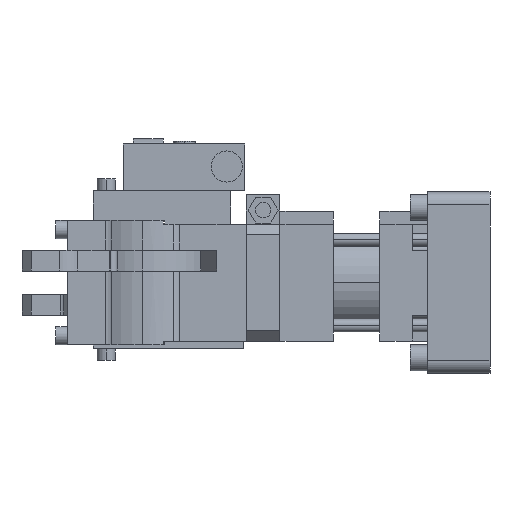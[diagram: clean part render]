
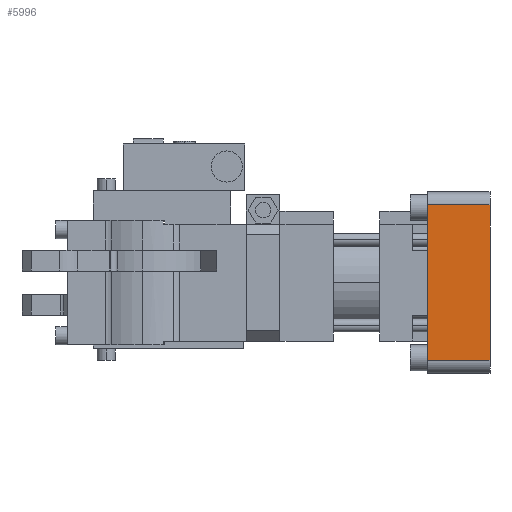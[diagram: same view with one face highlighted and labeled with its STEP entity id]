
A CAD part, left-side view. The second image highlights one B-rep face of the part: STEP entity #5996.
In plain terms, the highlighted planar face has unit normal (-1, 0, 0) as drawn and (0, -1, 0) by its records, which use the part's own axes.
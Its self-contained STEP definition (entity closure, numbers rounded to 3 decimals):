
#42 = DIRECTION ( 'NONE',  ( 1., 0., 0. ) ) ;
#461 = CARTESIAN_POINT ( 'NONE',  ( -30., -22.5, 0. ) ) ;
#1469 = ORIENTED_EDGE ( 'NONE', *, *, #11053, .F. ) ;
#2049 = CARTESIAN_POINT ( 'NONE',  ( 30., -22.5, 24. ) ) ;
#2306 = CARTESIAN_POINT ( 'NONE',  ( -30., -22.5, 24. ) ) ;
#2969 = LINE ( 'NONE', #2306, #11592 ) ;
#3229 = EDGE_LOOP ( 'NONE', ( #4543, #1469, #9292, #3859 ) ) ;
#3859 = ORIENTED_EDGE ( 'NONE', *, *, #14320, .T. ) ;
#4148 = CARTESIAN_POINT ( 'NONE',  ( -30., -22.5, 24. ) ) ;
#4183 = CARTESIAN_POINT ( 'NONE',  ( 30., -22.5, 0. ) ) ;
#4543 = ORIENTED_EDGE ( 'NONE', *, *, #11895, .T. ) ;
#4915 = LINE ( 'NONE', #2049, #13508 ) ;
#4924 = VERTEX_POINT ( 'NONE', #13718 ) ;
#5294 = VECTOR ( 'NONE', #8139, 1000. ) ;
#5309 = DIRECTION ( 'NONE',  ( 0., 1., 0. ) ) ;
#5471 = DIRECTION ( 'NONE',  ( 0., 0., -1. ) ) ;
#5816 = AXIS2_PLACEMENT_3D ( 'NONE', #4148, #5309, #13147 ) ;
#5996 = ADVANCED_FACE ( 'NONE', ( #12254 ), #10898, .F. ) ;
#6643 = VERTEX_POINT ( 'NONE', #4183 ) ;
#6673 = VERTEX_POINT ( 'NONE', #14355 ) ;
#7266 = DIRECTION ( 'NONE',  ( 1., 0., 0. ) ) ;
#8063 = LINE ( 'NONE', #461, #10658 ) ;
#8139 = DIRECTION ( 'NONE',  ( 0., 0., -1. ) ) ;
#8303 = LINE ( 'NONE', #10316, #5294 ) ;
#9292 = ORIENTED_EDGE ( 'NONE', *, *, #10560, .F. ) ;
#10316 = CARTESIAN_POINT ( 'NONE',  ( -30., -22.5, 24. ) ) ;
#10560 = EDGE_CURVE ( 'NONE', #6673, #14190, #2969, .T. ) ;
#10658 = VECTOR ( 'NONE', #7266, 1000. ) ;
#10898 = PLANE ( 'NONE',  #5816 ) ;
#11053 = EDGE_CURVE ( 'NONE', #14190, #6643, #4915, .T. ) ;
#11592 = VECTOR ( 'NONE', #42, 1000. ) ;
#11895 = EDGE_CURVE ( 'NONE', #4924, #6643, #8063, .T. ) ;
#12254 = FACE_OUTER_BOUND ( 'NONE', #3229, .T. ) ;
#13147 = DIRECTION ( 'NONE',  ( 0., 0., 1. ) ) ;
#13446 = CARTESIAN_POINT ( 'NONE',  ( 30., -22.5, 24. ) ) ;
#13508 = VECTOR ( 'NONE', #5471, 1000. ) ;
#13718 = CARTESIAN_POINT ( 'NONE',  ( -30., -22.5, 0. ) ) ;
#14190 = VERTEX_POINT ( 'NONE', #13446 ) ;
#14320 = EDGE_CURVE ( 'NONE', #6673, #4924, #8303, .T. ) ;
#14355 = CARTESIAN_POINT ( 'NONE',  ( -30., -22.5, 24. ) ) ;
